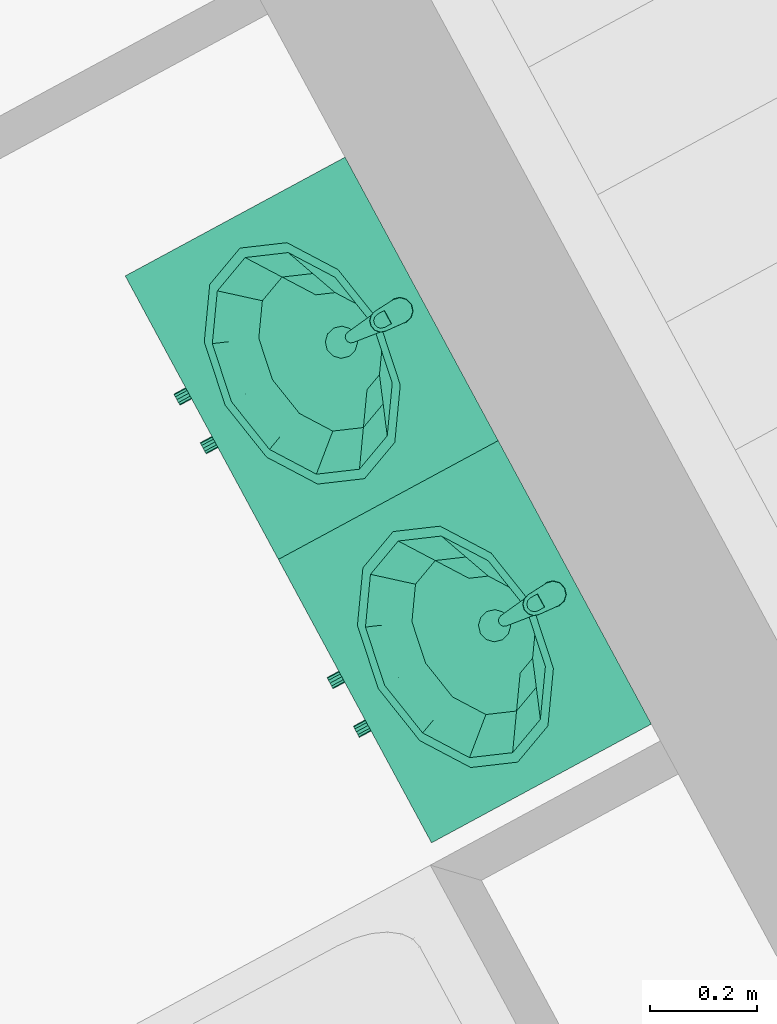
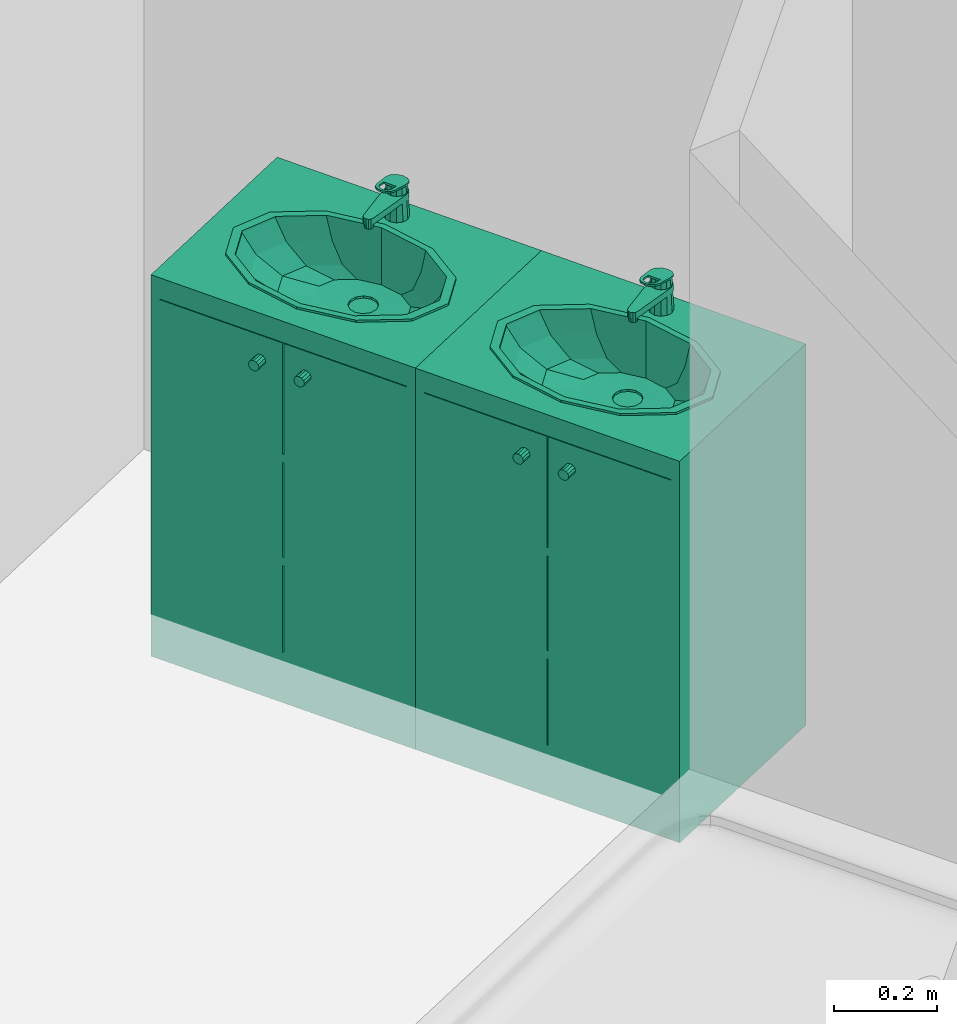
# One storey, part 140 of 195: 2 distribution elements.
"""IFC2X3 building model written with IfcOpenShell, lengths in metres."""

from ifc_helpers import new_model, entity, si_unit, converted_unit, derived_unit, money_unit, direction, frame, origin_with_axes, place, context, subcontext, project, spatial, open_shell, faceted_brep, surface_model, source, transform, mapped, type_object, element, save


model = new_model("IFC2X3")

# Units and contexts
model_context = context("Model", 3, precision=1e-05, world=origin_with_axes(), true_north=direction((0.0, 1.0)))
body_context = subcontext(model_context, "Body", "Model", "MODEL_VIEW")
ifc_project = project(units=[si_unit("LENGTHUNIT", "METRE"), si_unit("AREAUNIT", "SQUARE_METRE"), si_unit("VOLUMEUNIT", "CUBIC_METRE"), converted_unit("PLANEANGLEUNIT", "DEGREE", entity("IfcPlaneAngleMeasure", 0.0174532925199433), si_unit("PLANEANGLEUNIT", "RADIAN"), dimensions=[0, 0, 0, 0, 0, 0, 0]), money_unit("CHF"), converted_unit("TIMEUNIT", "Year", entity("IfcTimeMeasure", 31557600.0), si_unit("TIMEUNIT", "SECOND"), dimensions=[0, 0, 1, 0, 0, 0, 0]), si_unit("MASSUNIT", "GRAM", prefix="KILO"), si_unit("THERMODYNAMICTEMPERATUREUNIT", "DEGREE_CELSIUS"), si_unit("LUMINOUSINTENSITYUNIT", "LUMEN"), si_unit("ENERGYUNIT", "JOULE", prefix="MEGA"), derived_unit("THERMALCONDUCTANCEUNIT", [(si_unit("POWERUNIT", "WATT"), 1), (si_unit("LENGTHUNIT", "METRE"), -1), (si_unit("THERMODYNAMICTEMPERATUREUNIT", "KELVIN"), -1)]), derived_unit("SPECIFICHEATCAPACITYUNIT", [(si_unit("ENERGYUNIT", "JOULE"), 1), (si_unit("MASSUNIT", "GRAM", prefix="KILO"), -1), (si_unit("THERMODYNAMICTEMPERATUREUNIT", "KELVIN"), -1)]), derived_unit("MASSDENSITYUNIT", [(si_unit("MASSUNIT", "GRAM", prefix="KILO"), 1), (si_unit("VOLUMEUNIT", "CUBIC_METRE"), -1)])], contexts=[model_context])

# Site, building, storey
site_placement = place(None, origin_with_axes())
site = spatial("IfcSite", under=ifc_project, at=site_placement, Name="Site", CompositionType="ELEMENT")
building_placement = place(site_placement, origin_with_axes())
building = spatial("IfcBuilding", under=site, at=building_placement, Name="Bâtiment", CompositionType="ELEMENT")
storey_placement = place(building_placement, origin_with_axes())
storey = spatial("IfcBuildingStorey", under=building, at=storey_placement, Name="rdc", CompositionType="ELEMENT", Elevation=0.0)

# Distribution elements
distribution_element_type = type_object("IfcDistributionElementType", Name="Lavabo sur meuble 27")
shared_shape = source(origin_with_axes(), body_context, "Body", "SurfaceModel", [
    faceted_brep([(0.0, 0.0, 0.0), (0.6, 0.0, 0.0), (0.6, 0.0, 0.1), (0.0, 0.0, 0.1), (0.0, 0.4653441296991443, 0.0), (0.6, 0.4653441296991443, 0.0), (0.6, 0.4653441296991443, 0.1), (0.0, 0.4653441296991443, 0.1)], [[[0, 1, 2, 3]], [[0, 4, 5, 1]], [[1, 5, 6, 2]], [[3, 2, 6, 7]], [[4, 0, 3, 7]], [[5, 4, 7, 6]]]),
    faceted_brep([(0.0, 0.0, 0.1), (0.02, 0.0, 0.1), (0.02, 0.0, 0.12), (0.0, 0.0, 0.12), (0.0, 0.4653441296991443, 0.1), (0.02, 0.4653441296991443, 0.1), (0.58, 0.4653441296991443, 0.1), (0.6, 0.4653441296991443, 0.1), (0.6, 0.0, 0.1), (0.58, 0.0, 0.1), (0.58, 0.0, 0.12), (0.6, 0.0, 0.12), (0.6, 0.4653441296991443, 0.12), (0.58, 0.4653441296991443, 0.12), (0.02, 0.4653441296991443, 0.12), (0.0, 0.4653441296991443, 0.12)], [[[0, 1, 2, 3]], [[0, 4, 5, 6, 7, 8, 9, 1]], [[1, 9, 10, 2]], [[3, 2, 10, 11, 12, 13, 14, 15]], [[4, 0, 3, 15]], [[5, 4, 15, 14]], [[6, 5, 14, 13]], [[7, 6, 13, 12]], [[8, 7, 12, 11]], [[9, 8, 11, 10]]]),
    faceted_brep([(0.0, 0.0, 0.12), (0.02, 0.0, 0.12), (0.02, 0.0, 0.85), (0.0, 0.0, 0.85), (0.0, 0.4653441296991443, 0.12), (0.6, 0.4653441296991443, 0.12), (0.6, 0.0, 0.12), (0.58, 0.0, 0.12), (0.58, 0.4453441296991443, 0.12), (0.02, 0.4453441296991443, 0.12), (0.02, 0.4453441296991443, 0.85), (0.58, 0.4453441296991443, 0.85), (0.58, 0.0, 0.85), (0.6, 0.0, 0.85), (0.6, 0.4653441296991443, 0.85), (0.0, 0.4653441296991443, 0.85)], [[[0, 1, 2, 3]], [[0, 4, 5, 6, 7, 8, 9, 1]], [[1, 9, 10, 2]], [[3, 2, 10, 11, 12, 13, 14, 15]], [[4, 0, 3, 15]], [[5, 4, 15, 14]], [[6, 5, 14, 13]], [[7, 6, 13, 12]], [[8, 7, 12, 11]], [[9, 8, 11, 10]]]),
    faceted_brep([(0.58, 0.0, 0.3233333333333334), (0.58, 0.4453441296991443, 0.3233333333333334), (0.58, 0.4453441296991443, 0.3433333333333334), (0.58, 0.0, 0.3433333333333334), (0.02, 0.0, 0.3233333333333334), (0.02, 0.4453441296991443, 0.3233333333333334), (0.02, 0.4453441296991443, 0.3433333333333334), (0.02, 0.0, 0.3433333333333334)], [[[0, 1, 2, 3]], [[0, 4, 5, 1]], [[1, 5, 6, 2]], [[3, 2, 6, 7]], [[4, 0, 3, 7]], [[5, 4, 7, 6]]]),
    faceted_brep([(0.58, 0.0, 0.5666666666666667), (0.58, 0.4453441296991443, 0.5666666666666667), (0.58, 0.4453441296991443, 0.5866666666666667), (0.58, 0.0, 0.5866666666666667), (0.02, 0.0, 0.5666666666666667), (0.02, 0.4453441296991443, 0.5666666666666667), (0.02, 0.4453441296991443, 0.5866666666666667), (0.02, 0.0, 0.5866666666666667)], [[[0, 1, 2, 3]], [[0, 4, 5, 1]], [[1, 5, 6, 2]], [[3, 2, 6, 7]], [[4, 0, 3, 7]], [[5, 4, 7, 6]]]),
    faceted_brep([(0.0, 0.4653441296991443, 0.85), (0.6, 0.4653441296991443, 0.85), (0.6, 0.0, 0.85), (0.0, 0.0, 0.85), (0.4124999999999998, 0.08276825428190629, 0.85), (0.4948557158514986, 0.137672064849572, 0.85), (0.525, 0.2126720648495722, 0.85), (0.4948557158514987, 0.2876720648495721, 0.85), (0.4125, 0.3425758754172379, 0.85), (0.3, 0.3626720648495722, 0.85), (0.1875000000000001, 0.342575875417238, 0.85), (0.1051442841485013, 0.2876720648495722, 0.85), (0.07499999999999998, 0.2126720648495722, 0.85), (0.1051442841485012, 0.1376720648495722, 0.85), (0.1874999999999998, 0.08276825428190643, 0.85), (0.3, 0.06267206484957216, 0.85), (0.0, 0.4653441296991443, 0.9), (0.6, 0.4653441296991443, 0.9), (0.6, 0.0, 0.9), (0.0, 0.0, 0.9), (0.4124999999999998, 0.08276825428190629, 0.9), (0.4948557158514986, 0.137672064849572, 0.9), (0.525, 0.2126720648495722, 0.9), (0.4948557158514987, 0.2876720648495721, 0.9), (0.4125, 0.3425758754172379, 0.9), (0.3, 0.3626720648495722, 0.9), (0.1875000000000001, 0.342575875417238, 0.9), (0.1051442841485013, 0.2876720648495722, 0.9), (0.07499999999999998, 0.2126720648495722, 0.9), (0.1051442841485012, 0.1376720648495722, 0.9), (0.1874999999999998, 0.08276825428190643, 0.9), (0.3, 0.06267206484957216, 0.9)], [[[0, 1, 2, 3], [4, 5, 6, 7, 8, 9, 10, 11, 12, 13, 14, 15]], [[0, 16, 17, 1]], [[1, 17, 18, 2]], [[2, 18, 19, 3]], [[3, 19, 16, 0]], [[20, 21, 5, 4]], [[21, 22, 6, 5]], [[22, 23, 7, 6]], [[23, 24, 8, 7]], [[24, 25, 9, 8]], [[25, 26, 10, 9]], [[26, 27, 11, 10]], [[27, 28, 12, 11]], [[28, 29, 13, 12]], [[29, 30, 14, 13]], [[30, 31, 15, 14]], [[31, 20, 4, 15]], [[18, 17, 16, 19], [24, 23, 22, 21, 20, 31, 30, 29, 28, 27, 26, 25]]]),
    faceted_brep([(0.544, 0.2126720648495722, 0.905), (0.544, 0.2126720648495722, 0.9), (0.511310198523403, 0.2943684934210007, 0.9), (0.511310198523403, 0.2943684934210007, 0.905), (0.5113101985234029, 0.1309756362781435, 0.905), (0.5113101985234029, 0.1309756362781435, 0.9), (0.4219999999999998, 0.07116969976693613, 0.9), (0.3, 0.04927920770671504, 0.9), (0.1779999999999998, 0.07116969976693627, 0.9), (0.08868980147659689, 0.1309756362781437, 0.9), (0.05599999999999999, 0.2126720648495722, 0.9), (0.088689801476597, 0.2943684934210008, 0.9), (0.178, 0.3541744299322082, 0.9), (0.3, 0.3760649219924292, 0.9), (0.422, 0.3541744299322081, 0.9), (0.524, 0.2126720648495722, 0.9), (0.4939896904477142, 0.2876720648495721, 0.9), (0.412, 0.3425758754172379, 0.9), (0.3, 0.3626720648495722, 0.9), (0.1880000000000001, 0.342575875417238, 0.9), (0.1060103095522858, 0.2876720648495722, 0.9), (0.07599999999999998, 0.2126720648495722, 0.9), (0.1060103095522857, 0.1376720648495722, 0.9), (0.1879999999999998, 0.08276825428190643, 0.9), (0.3, 0.06267206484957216, 0.9), (0.4119999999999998, 0.08276825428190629, 0.9), (0.4939896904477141, 0.137672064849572, 0.9), (0.422, 0.3541744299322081, 0.905), (0.3, 0.3760649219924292, 0.905), (0.178, 0.3541744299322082, 0.905), (0.088689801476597, 0.2943684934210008, 0.905), (0.05599999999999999, 0.2126720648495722, 0.905), (0.08868980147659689, 0.1309756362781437, 0.905), (0.1779999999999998, 0.07116969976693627, 0.905), (0.3, 0.04927920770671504, 0.905), (0.4219999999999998, 0.07116969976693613, 0.905), (0.524, 0.2126720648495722, 0.905), (0.4939896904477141, 0.137672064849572, 0.905), (0.4119999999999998, 0.08276825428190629, 0.905), (0.3, 0.06267206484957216, 0.905), (0.1879999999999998, 0.08276825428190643, 0.905), (0.1060103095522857, 0.1376720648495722, 0.905), (0.07599999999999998, 0.2126720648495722, 0.905), (0.1060103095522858, 0.2876720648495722, 0.905), (0.1880000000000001, 0.342575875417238, 0.905), (0.3, 0.3626720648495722, 0.905), (0.412, 0.3425758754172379, 0.905), (0.4939896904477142, 0.2876720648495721, 0.905)], [[[0, 1, 2, 3]], [[4, 5, 1, 0]], [[1, 5, 6, 7, 8, 9, 10, 11, 12, 13, 14, 2], [15, 16, 17, 18, 19, 20, 21, 22, 23, 24, 25, 26]], [[3, 2, 14, 27]], [[0, 3, 27, 28, 29, 30, 31, 32, 33, 34, 35, 4], [36, 37, 38, 39, 40, 41, 42, 43, 44, 45, 46, 47]], [[35, 6, 5, 4]], [[34, 7, 6, 35]], [[33, 8, 7, 34]], [[32, 9, 8, 33]], [[31, 10, 9, 32]], [[30, 11, 10, 31]], [[29, 12, 11, 30]], [[28, 13, 12, 29]], [[27, 14, 13, 28]], [[47, 16, 15, 36]], [[46, 17, 16, 47]], [[45, 18, 17, 46]], [[44, 19, 18, 45]], [[43, 20, 19, 44]], [[42, 21, 20, 43]], [[41, 22, 21, 42]], [[40, 23, 22, 41]], [[39, 24, 23, 40]], [[38, 25, 24, 39]], [[37, 26, 25, 38]], [[36, 15, 26, 37]]]),
    surface_model("IfcShellBasedSurfaceModel", [(0.3, 0.3626720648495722, 0.9), (0.3, 0.3626720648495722, 0.848), (0.4008, 0.3445854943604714, 0.848), (0.412, 0.342575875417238, 0.9), (0.1879999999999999, 0.3425758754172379, 0.9), (0.1991999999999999, 0.3445854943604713, 0.848), (0.4745907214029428, 0.2951720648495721, 0.848), (0.4939896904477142, 0.2876720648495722, 0.9), (0.1060103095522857, 0.2876720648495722, 0.9), (0.1254092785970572, 0.2951720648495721, 0.848), (0.5016, 0.2276720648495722, 0.848), (0.524, 0.2126720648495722, 0.9), (0.07599999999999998, 0.2126720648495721, 0.9), (0.09839999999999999, 0.2276720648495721, 0.848), (0.4745907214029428, 0.1601720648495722, 0.848), (0.4939896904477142, 0.1376720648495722, 0.9), (0.1060103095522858, 0.1376720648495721, 0.9), (0.1254092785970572, 0.1601720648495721, 0.848), (0.4008, 0.1107586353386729, 0.848), (0.412, 0.08276825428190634, 0.9), (0.1879999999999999, 0.08276825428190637, 0.9), (0.1992, 0.110758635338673, 0.848), (0.3, 0.09267206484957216, 0.848), (0.3, 0.06267206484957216, 0.9)], [open_shell([[[0, 1, 2, 3]], [[4, 5, 1, 0]], [[3, 2, 6, 7]], [[8, 9, 5, 4]], [[7, 6, 10, 11]], [[12, 13, 9, 8]], [[11, 10, 14, 15]], [[16, 17, 13, 12]], [[15, 14, 18, 19]], [[20, 21, 17, 16]], [[19, 18, 22, 23]], [[23, 22, 21, 20]]])]),
    surface_model("IfcShellBasedSurfaceModel", [(0.3, 0.3626720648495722, 0.848), (0.3, 0.3626720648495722, 0.7959999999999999), (0.379632, 0.3483836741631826, 0.7959999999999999), (0.4008, 0.3445854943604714, 0.848), (0.1991999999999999, 0.3445854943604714, 0.848), (0.2203679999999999, 0.3483836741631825, 0.7959999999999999), (0.4379266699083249, 0.3093470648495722, 0.7959999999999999), (0.4745907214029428, 0.2951720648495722, 0.848), (0.1254092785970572, 0.2951720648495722, 0.848), (0.1620733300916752, 0.3093470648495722, 0.7959999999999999), (0.459264, 0.2560220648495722, 0.7959999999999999), (0.5016, 0.2276720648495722, 0.848), (0.09839999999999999, 0.2276720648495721, 0.848), (0.140736, 0.2560220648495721, 0.7959999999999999), (0.4379266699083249, 0.2026970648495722, 0.7959999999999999), (0.4745907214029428, 0.1601720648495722, 0.848), (0.1254092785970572, 0.1601720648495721, 0.848), (0.1620733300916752, 0.2026970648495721, 0.7959999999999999), (0.379632, 0.1636604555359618, 0.7959999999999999), (0.4008, 0.1107586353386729, 0.848), (0.1992, 0.110758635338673, 0.848), (0.220368, 0.1636604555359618, 0.7959999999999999), (0.3, 0.1493720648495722, 0.7959999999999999), (0.3, 0.09267206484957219, 0.848)], [open_shell([[[0, 1, 2, 3]], [[4, 5, 1, 0]], [[3, 2, 6, 7]], [[8, 9, 5, 4]], [[7, 6, 10, 11]], [[12, 13, 9, 8]], [[11, 10, 14, 15]], [[16, 17, 13, 12]], [[15, 14, 18, 19]], [[20, 21, 17, 16]], [[19, 18, 22, 23]], [[23, 22, 21, 20]]])]),
    surface_model("IfcShellBasedSurfaceModel", [(0.3, 0.3626720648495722, 0.7959999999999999), (0.3, 0.3626720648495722, 0.7699999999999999), (0.35016816, 0.3536703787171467, 0.7699999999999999), (0.379632, 0.3483836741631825, 0.7959999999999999), (0.2203679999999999, 0.3483836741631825, 0.7959999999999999), (0.2498318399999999, 0.3536703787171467, 0.7699999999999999), (0.3868938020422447, 0.3290773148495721, 0.7699999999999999), (0.4379266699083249, 0.3093470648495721, 0.7959999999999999), (0.1620733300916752, 0.3093470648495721, 0.7959999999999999), (0.2131061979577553, 0.3290773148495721, 0.7699999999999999), (0.40033632, 0.2954825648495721, 0.7699999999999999), (0.459264, 0.2560220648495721, 0.7959999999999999), (0.140736, 0.2560220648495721, 0.7959999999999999), (0.19966368, 0.2954825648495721, 0.7699999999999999), (0.3868938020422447, 0.2618878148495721, 0.7699999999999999), (0.4379266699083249, 0.2026970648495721, 0.7959999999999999), (0.1620733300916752, 0.2026970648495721, 0.7959999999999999), (0.2131061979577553, 0.2618878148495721, 0.7699999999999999), (0.35016816, 0.2372947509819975, 0.7699999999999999), (0.379632, 0.1636604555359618, 0.7959999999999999), (0.220368, 0.1636604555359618, 0.7959999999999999), (0.24983184, 0.2372947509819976, 0.7699999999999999), (0.3, 0.2282930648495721, 0.7699999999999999), (0.3, 0.1493720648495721, 0.7959999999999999)], [open_shell([[[0, 1, 2, 3]], [[4, 5, 1, 0]], [[3, 2, 6, 7]], [[8, 9, 5, 4]], [[7, 6, 10, 11]], [[12, 13, 9, 8]], [[11, 10, 14, 15]], [[16, 17, 13, 12]], [[15, 14, 18, 19]], [[20, 21, 17, 16]], [[19, 18, 22, 23]], [[23, 22, 21, 20]]])]),
    surface_model("IfcShellBasedSurfaceModel", [(0.3, 0.3626720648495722, 0.7699999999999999), (0.315, 0.3214633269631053, 0.7629999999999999), (0.35016816, 0.3536703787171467, 0.7699999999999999), (0.3, 0.3254825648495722, 0.7629999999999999), (0.3259807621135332, 0.3104825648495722, 0.7629999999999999), (0.2498318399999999, 0.3536703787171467, 0.7699999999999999), (0.3868938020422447, 0.3290773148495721, 0.7699999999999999), (0.285, 0.3214633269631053, 0.7629999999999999), (0.33, 0.2954825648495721, 0.7629999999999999), (0.2131061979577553, 0.3290773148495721, 0.7699999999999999), (0.40033632, 0.2954825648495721, 0.7699999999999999), (0.2740192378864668, 0.3104825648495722, 0.7629999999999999), (0.3259807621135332, 0.2804825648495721, 0.7629999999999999), (0.19966368, 0.2954825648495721, 0.7699999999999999), (0.3868938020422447, 0.2618878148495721, 0.7699999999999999), (0.27, 0.2954825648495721, 0.7629999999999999), (0.315, 0.269501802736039, 0.7629999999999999), (0.2131061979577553, 0.2618878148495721, 0.7699999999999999), (0.35016816, 0.2372947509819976, 0.7699999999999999), (0.2740192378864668, 0.2804825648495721, 0.7629999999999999), (0.3, 0.2654825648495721, 0.7629999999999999), (0.24983184, 0.2372947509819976, 0.7699999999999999), (0.3, 0.2282930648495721, 0.7699999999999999), (0.285, 0.269501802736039, 0.7629999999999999)], [open_shell([[[0, 1, 2]], [[0, 3, 1]], [[2, 1, 4]], [[5, 3, 0]], [[2, 4, 6]], [[5, 7, 3]], [[6, 4, 8]], [[9, 7, 5]], [[6, 8, 10]], [[9, 11, 7]], [[10, 8, 12]], [[13, 11, 9]], [[10, 12, 14]], [[13, 15, 11]], [[14, 12, 16]], [[17, 15, 13]], [[14, 16, 18]], [[17, 19, 15]], [[18, 16, 20]], [[21, 19, 17]], [[18, 20, 22]], [[21, 23, 19]], [[22, 20, 23]], [[22, 23, 21]]])]),
    surface_model("IfcShellBasedSurfaceModel", [(0.33, 0.2954825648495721, 0.763), (0.33, 0.2954825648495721, 0.758), (0.3259807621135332, 0.3104825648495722, 0.758), (0.3259807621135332, 0.3104825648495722, 0.763), (0.3259807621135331, 0.2804825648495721, 0.763), (0.3259807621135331, 0.2804825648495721, 0.758), (0.3149999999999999, 0.269501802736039, 0.758), (0.3, 0.2654825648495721, 0.758), (0.285, 0.269501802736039, 0.758), (0.2740192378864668, 0.2804825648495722, 0.758), (0.27, 0.2954825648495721, 0.758), (0.2740192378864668, 0.3104825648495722, 0.758), (0.285, 0.3214633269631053, 0.758), (0.3, 0.3254825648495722, 0.758), (0.315, 0.3214633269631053, 0.758), (0.315, 0.3214633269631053, 0.763), (0.3149999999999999, 0.269501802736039, 0.763), (0.3, 0.2654825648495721, 0.763), (0.285, 0.269501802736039, 0.763), (0.2740192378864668, 0.2804825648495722, 0.763), (0.27, 0.2954825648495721, 0.763), (0.2740192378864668, 0.3104825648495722, 0.763), (0.285, 0.3214633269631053, 0.763), (0.3, 0.3254825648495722, 0.763)], [open_shell([[[0, 1, 2, 3]], [[4, 5, 1, 0]], [[1, 5, 6, 7, 8, 9, 10, 11, 12, 13, 14, 2]], [[3, 2, 14, 15]], [[16, 6, 5, 4]], [[17, 7, 6, 16]], [[18, 8, 7, 17]], [[19, 9, 8, 18]], [[20, 10, 9, 19]], [[21, 11, 10, 20]], [[22, 12, 11, 21]], [[23, 13, 12, 22]], [[15, 14, 13, 23]]])]),
    faceted_brep([(0.3125, 0.4406587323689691, 0.9), (0.3, 0.4440080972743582, 0.9), (0.3, 0.4402100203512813, 0.9759615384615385), (0.310587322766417, 0.4373458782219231, 0.976507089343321), (0.3216506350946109, 0.4315080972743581, 0.9), (0.325, 0.4190080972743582, 0.9), (0.3216506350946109, 0.4065080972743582, 0.9), (0.3125, 0.3973574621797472, 0.9), (0.3, 0.3940080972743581, 0.9), (0.2875, 0.3973574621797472, 0.9), (0.278349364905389, 0.4065080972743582, 0.9), (0.275, 0.4190080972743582, 0.9), (0.278349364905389, 0.4315080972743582, 0.9), (0.2875, 0.4406587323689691, 0.9), (0.289412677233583, 0.4373458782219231, 0.976507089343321), (0.2817264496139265, 0.4295583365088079, 0.9779904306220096), (0.279, 0.4190080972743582, 0.98), (0.2818996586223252, 0.4085578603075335, 0.9819905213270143), (0.2895858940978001, 0.400970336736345, 0.9834357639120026), (0.3, 0.3982062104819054, 0.9839622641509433), (0.3104141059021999, 0.400970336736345, 0.9834357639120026), (0.3181003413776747, 0.4085578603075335, 0.9819905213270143), (0.321, 0.4190080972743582, 0.98), (0.3182735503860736, 0.4295583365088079, 0.9779904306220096)], [[[0, 1, 2, 3]], [[0, 4, 5, 6, 7, 8, 9, 10, 11, 12, 13, 1]], [[1, 13, 14, 2]], [[3, 2, 14, 15, 16, 17, 18, 19, 20, 21, 22, 23]], [[4, 0, 3, 23]], [[5, 4, 23, 22]], [[6, 5, 22, 21]], [[7, 6, 21, 20]], [[8, 7, 20, 19]], [[9, 8, 19, 18]], [[10, 9, 18, 17]], [[11, 10, 17, 16]], [[12, 11, 16, 15]], [[13, 12, 15, 14]]]),
    faceted_brep([(0.309, 0.3160080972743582, 0.935), (0.3077942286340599, 0.3205080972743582, 0.935), (0.3077942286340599, 0.3205080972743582, 0.9450000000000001), (0.309, 0.3160080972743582, 0.9450000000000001), (0.3077942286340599, 0.3115080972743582, 0.935), (0.3045, 0.3082138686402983, 0.935), (0.3, 0.3070080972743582, 0.935), (0.2955, 0.3082138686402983, 0.935), (0.2922057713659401, 0.3115080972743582, 0.935), (0.291, 0.3160080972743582, 0.935), (0.2922057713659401, 0.3205080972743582, 0.935), (0.2955, 0.3238023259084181, 0.935), (0.3, 0.3250080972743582, 0.935), (0.3045, 0.3238023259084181, 0.935), (0.3045, 0.3238023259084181, 0.9450000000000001), (0.3, 0.3250080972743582, 0.9450000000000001), (0.2955, 0.3238023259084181, 0.9450000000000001), (0.2922057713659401, 0.3205080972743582, 0.9450000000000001), (0.291, 0.3160080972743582, 0.9450000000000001), (0.2922057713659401, 0.3115080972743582, 0.9450000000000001), (0.2955, 0.3082138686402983, 0.9450000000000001), (0.3, 0.3070080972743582, 0.9450000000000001), (0.3045, 0.3082138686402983, 0.9450000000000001), (0.3077942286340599, 0.3115080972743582, 0.9450000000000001)], [[[0, 1, 2, 3]], [[0, 4, 5, 6, 7, 8, 9, 10, 11, 12, 13, 1]], [[1, 13, 14, 2]], [[3, 2, 14, 15, 16, 17, 18, 19, 20, 21, 22, 23]], [[4, 0, 3, 23]], [[5, 4, 23, 22]], [[6, 5, 22, 21]], [[7, 6, 21, 20]], [[8, 7, 20, 19]], [[9, 8, 19, 18]], [[10, 9, 18, 17]], [[11, 10, 17, 16]], [[12, 11, 16, 15]], [[13, 12, 15, 14]]]),
    faceted_brep([(0.2871282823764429, 0.439264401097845, 0.9600000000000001), (0.2782721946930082, 0.4292013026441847, 0.9600000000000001), (0.2761946, 0.4159581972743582, 0.9600000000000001), (0.2890880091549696, 0.3146197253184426, 0.9600000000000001), (0.2909711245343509, 0.3097249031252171, 0.9600000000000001), (0.2949066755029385, 0.3062583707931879, 0.9600000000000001), (0.300000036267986, 0.305008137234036, 0.9600000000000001), (0.3050933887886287, 0.3062584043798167, 0.9600000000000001), (0.309028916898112, 0.3097249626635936, 0.9600000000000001), (0.310912, 0.3146197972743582, 0.9600000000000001), (0.3238053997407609, 0.4159581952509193, 0.9600000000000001), (0.3217278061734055, 0.4292013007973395, 0.9600000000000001), (0.3128717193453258, 0.4392644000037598, 0.9600000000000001), (0.300000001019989, 0.44300807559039, 0.9600000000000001), (0.311, 0.4380606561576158, 0.9600000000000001), (0.3190525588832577, 0.4300080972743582, 0.9600000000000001), (0.322, 0.4190080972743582, 0.9600000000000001), (0.3190525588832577, 0.4080080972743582, 0.9600000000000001), (0.3109999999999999, 0.3999555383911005, 0.9600000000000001), (0.3, 0.3970080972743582, 0.9600000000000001), (0.289, 0.3999555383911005, 0.9600000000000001), (0.2809474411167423, 0.4080080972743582, 0.9600000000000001), (0.278, 0.4190080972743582, 0.9600000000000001), (0.2809474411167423, 0.4300080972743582, 0.9600000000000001), (0.289, 0.4380606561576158, 0.9600000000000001), (0.3, 0.4410080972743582, 0.9600000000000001), (0.2782721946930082, 0.4292013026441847, 0.9450000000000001), (0.2871282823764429, 0.439264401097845, 0.9450000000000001), (0.2761946, 0.4159581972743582, 0.9450000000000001), (0.2890880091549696, 0.3146197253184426, 0.9450000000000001), (0.2909711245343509, 0.3097249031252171, 0.9450000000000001), (0.2949066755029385, 0.3062583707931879, 0.9450000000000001), (0.300000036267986, 0.305008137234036, 0.9450000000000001), (0.3050933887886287, 0.3062584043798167, 0.9450000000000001), (0.309028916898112, 0.3097249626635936, 0.9450000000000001), (0.310912, 0.3146197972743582, 0.9450000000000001), (0.3238053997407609, 0.4159581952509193, 0.9450000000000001), (0.3217278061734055, 0.4292013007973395, 0.9450000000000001), (0.3128717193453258, 0.4392644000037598, 0.9450000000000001), (0.300000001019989, 0.44300807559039, 0.9450000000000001), (0.311375, 0.4387101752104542, 0.9450000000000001), (0.319702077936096, 0.4303830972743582, 0.9450000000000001), (0.32275, 0.4190080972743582, 0.9450000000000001), (0.319702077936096, 0.4076330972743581, 0.9450000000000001), (0.311375, 0.3993060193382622, 0.9450000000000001), (0.3, 0.3962580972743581, 0.9450000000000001), (0.288625, 0.3993060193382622, 0.9450000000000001), (0.280297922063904, 0.4076330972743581, 0.9450000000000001), (0.2772499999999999, 0.4190080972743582, 0.9450000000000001), (0.280297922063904, 0.4303830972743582, 0.9450000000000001), (0.288625, 0.4387101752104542, 0.9450000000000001), (0.3, 0.4417580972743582, 0.9450000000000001)], [[[0, 1, 2, 3, 4, 5, 6, 7, 8, 9, 10, 11, 12, 13], [14, 15, 16, 17, 18, 19, 20, 21, 22, 23, 24, 25]], [[26, 1, 0, 27]], [[28, 2, 1, 26]], [[29, 3, 2, 28]], [[30, 4, 3, 29]], [[31, 5, 4, 30]], [[32, 6, 5, 31]], [[33, 7, 6, 32]], [[34, 8, 7, 33]], [[35, 9, 8, 34]], [[36, 10, 9, 35]], [[37, 11, 10, 36]], [[38, 12, 11, 37]], [[39, 13, 12, 38]], [[27, 0, 13, 39]], [[40, 41, 15, 14]], [[41, 42, 16, 15]], [[42, 43, 17, 16]], [[43, 44, 18, 17]], [[44, 45, 19, 18]], [[20, 19, 45, 46]], [[21, 20, 46, 47]], [[22, 21, 47, 48]], [[23, 22, 48, 49]], [[24, 23, 49, 50]], [[50, 51, 25, 24]], [[51, 40, 14, 25]], [[32, 31, 30, 29, 28, 26, 27, 39, 38, 37, 36, 35, 34, 33], [44, 43, 42, 41, 40, 51, 50, 49, 48, 47, 46, 45]]]),
    faceted_brep([(0.323893, 0.4173155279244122, 0.9803223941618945), (0.3212964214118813, 0.4297828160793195, 0.9779476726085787), (0.3212964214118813, 0.4305312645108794, 0.9818770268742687), (0.323893, 0.4180639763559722, 0.9842517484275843), (0.3209459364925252, 0.377171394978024, 0.9879688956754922), (0.317663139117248, 0.3674937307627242, 0.9898122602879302), (0.3100614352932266, 0.3605443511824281, 0.9911359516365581), (0.2999995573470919, 0.3580224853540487, 0.9916163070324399), (0.289937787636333, 0.3605447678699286, 0.9911358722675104), (0.2823363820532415, 0.3674944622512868, 0.9898121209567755), (0.279054, 0.3771722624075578, 0.9879687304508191), (0.2761069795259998, 0.4173158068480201, 0.9803223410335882), (0.2787037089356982, 0.4297830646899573, 0.9779476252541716), (0.2875283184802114, 0.4390992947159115, 0.976173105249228), (0.3000001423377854, 0.4425400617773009, 0.9755177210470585), (0.3124719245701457, 0.4390991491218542, 0.9761731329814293), (0.314, 0.3934672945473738, 0.9848649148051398), (0.286, 0.3934672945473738, 0.9848649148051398), (0.286, 0.37865166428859, 0.9876869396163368), (0.2878756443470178, 0.3717752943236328, 0.9889967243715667), (0.293, 0.3667414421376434, 0.9899555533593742), (0.3, 0.3648989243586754, 0.9903065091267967), (0.307, 0.3667414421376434, 0.9899555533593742), (0.3121243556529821, 0.3717752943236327, 0.9889967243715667), (0.314, 0.37865166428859, 0.9876869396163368), (0.3124719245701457, 0.4398475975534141, 0.9801024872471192), (0.3000001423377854, 0.4432885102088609, 0.9794470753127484), (0.2875283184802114, 0.4398477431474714, 0.9801024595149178), (0.2787037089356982, 0.4305315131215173, 0.9818769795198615), (0.2761069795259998, 0.4180642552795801, 0.9842516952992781), (0.279054, 0.3779207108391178, 0.991898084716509), (0.2823363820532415, 0.3682429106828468, 0.9937414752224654), (0.289937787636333, 0.3612932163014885, 0.9950652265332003), (0.2999995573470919, 0.3587709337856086, 0.9955456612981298), (0.3100614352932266, 0.3612927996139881, 0.995065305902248), (0.317663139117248, 0.3682421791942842, 0.9937416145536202), (0.3209459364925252, 0.377919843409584, 0.9918982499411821), (0.314, 0.3942157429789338, 0.9887942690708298), (0.314, 0.3794001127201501, 0.9916162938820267), (0.3121243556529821, 0.3725237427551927, 0.9929260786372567), (0.307, 0.3674898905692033, 0.9938849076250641), (0.3, 0.3656473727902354, 0.9942358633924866), (0.293, 0.3674898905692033, 0.9938849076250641), (0.2878756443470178, 0.3725237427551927, 0.9929260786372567), (0.286, 0.3794001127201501, 0.9916162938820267), (0.286, 0.3942157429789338, 0.9887942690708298)], [[[0, 1, 2, 3]], [[0, 4, 5, 6, 7, 8, 9, 10, 11, 12, 13, 14, 15, 1], [16, 17, 18, 19, 20, 21, 22, 23, 24]], [[1, 15, 25, 2]], [[3, 2, 25, 26, 27, 28, 29, 30, 31, 32, 33, 34, 35, 36], [37, 38, 39, 40, 41, 42, 43, 44, 45]], [[4, 0, 3, 36]], [[5, 4, 36, 35]], [[6, 5, 35, 34]], [[7, 6, 34, 33]], [[8, 7, 33, 32]], [[9, 8, 32, 31]], [[10, 9, 31, 30]], [[11, 10, 30, 29]], [[12, 11, 29, 28]], [[13, 12, 28, 27]], [[14, 13, 27, 26]], [[15, 14, 26, 25]], [[17, 16, 37, 45]], [[18, 17, 45, 44]], [[19, 18, 44, 43]], [[20, 19, 43, 42]], [[21, 20, 42, 41]], [[22, 21, 41, 40]], [[23, 22, 40, 39]], [[24, 23, 39, 38]], [[16, 24, 38, 37]]]),
    surface_model("IfcShellBasedSurfaceModel", [(0.001500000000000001, 0.0, 0.1015), (0.001500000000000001, 0.0, 0.8485), (0.2985, 0.0, 0.8485), (0.2985, 0.0, 0.1015)], [open_shell([[[0, 1, 2, 3]]])]),
    faceted_brep([(0.2588923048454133, 0.0, 0.7855), (0.2545, 0.0, 0.7811076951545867), (0.2485, 0.0, 0.7795), (0.2425, 0.0, 0.7811076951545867), (0.2381076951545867, 0.0, 0.7855), (0.2365, 0.0, 0.7915), (0.2381076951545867, 0.0, 0.7975), (0.2425, 0.0, 0.8018923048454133), (0.2485, 0.0, 0.8035), (0.2545, 0.0, 0.8018923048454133), (0.2588923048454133, 0.0, 0.7975), (0.2605, 0.0, 0.7915), (0.2588923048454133, -0.025, 0.7855), (0.2545, -0.025, 0.7811076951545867), (0.2485, -0.025, 0.7795), (0.2425, -0.025, 0.7811076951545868), (0.2381076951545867, -0.025, 0.7855), (0.2365, -0.025, 0.7915), (0.2381076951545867, -0.025, 0.7975), (0.2425, -0.025, 0.8018923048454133), (0.2485, -0.025, 0.8035), (0.2545, -0.025, 0.8018923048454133), (0.2588923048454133, -0.025, 0.7975), (0.2605, -0.025, 0.7915)], [[[0, 1, 2, 3, 4, 5, 6, 7, 8, 9, 10, 11]], [[1, 0, 12, 13]], [[2, 1, 13, 14]], [[3, 2, 14, 15]], [[4, 3, 15, 16]], [[5, 4, 16, 17]], [[6, 5, 17, 18]], [[7, 6, 18, 19]], [[8, 7, 19, 20]], [[9, 8, 20, 21]], [[10, 9, 21, 22]], [[11, 10, 22, 23]], [[0, 11, 23, 12]], [[12, 23, 22, 21, 20, 19, 18, 17, 16, 15, 14, 13]]]),
    surface_model("IfcShellBasedSurfaceModel", [(0.5985, 0.0, 0.1015), (0.3015000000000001, 0.0, 0.1015), (0.3015000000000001, 0.0, 0.8485), (0.5985, 0.0, 0.8485)], [open_shell([[[0, 1, 2, 3]]])]),
    faceted_brep([(0.3411076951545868, 0.0, 0.7855), (0.3395, 0.0, 0.7915), (0.3411076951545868, 0.0, 0.7975), (0.3455, 0.0, 0.8018923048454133), (0.3515, 0.0, 0.8035), (0.3575, 0.0, 0.8018923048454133), (0.3618923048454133, 0.0, 0.7975), (0.3635, 0.0, 0.7915), (0.3618923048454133, 0.0, 0.7855), (0.3575, 0.0, 0.7811076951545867), (0.3515, 0.0, 0.7795), (0.3455, 0.0, 0.7811076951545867), (0.3411076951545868, -0.025, 0.7855), (0.3395, -0.025, 0.7915), (0.3411076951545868, -0.025, 0.7975), (0.3455, -0.025, 0.8018923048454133), (0.3515, -0.025, 0.8035), (0.3575, -0.025, 0.8018923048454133), (0.3618923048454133, -0.025, 0.7975), (0.3635, -0.025, 0.7915), (0.3618923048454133, -0.025, 0.7855), (0.3575, -0.025, 0.7811076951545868), (0.3515, -0.025, 0.7795), (0.3455, -0.025, 0.7811076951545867)], [[[0, 1, 2, 3, 4, 5, 6, 7, 8, 9, 10, 11]], [[0, 12, 13, 1]], [[1, 13, 14, 2]], [[2, 14, 15, 3]], [[3, 15, 16, 4]], [[4, 16, 17, 5]], [[5, 17, 18, 6]], [[6, 18, 19, 7]], [[7, 19, 20, 8]], [[8, 20, 21, 9]], [[9, 21, 22, 10]], [[10, 22, 23, 11]], [[11, 23, 12, 0]], [[12, 23, 22, 21, 20, 19, 18, 17, 16, 15, 14, 13]]]),
])
for number, where, z_axis, x_axis, name in (
    (1, (9562.562264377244, -1028.149999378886, 57.59999999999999), (0.0, 0.0, 1.0), (0.4753186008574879, -0.8798137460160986, 0.0), "Obj.-004"),
    (2, (9562.277073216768, -1027.622111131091, 57.59999999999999), (0.0, 0.0, 1.0), (0.4753186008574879, -0.8798137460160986, 0.0), "Obj.-004"),
):
    element("IfcDistributionElement", number, at=place(storey_placement, frame(where, z_axis=z_axis, x_axis=x_axis)), inside=storey, type_object=distribution_element_type, Name=name, context=body_context, shape_type="MappedRepresentation", body=[
        mapped(shared_shape, transform((0.0, 0.0, 0.0))),
    ])

save(model, "model.ifc")
